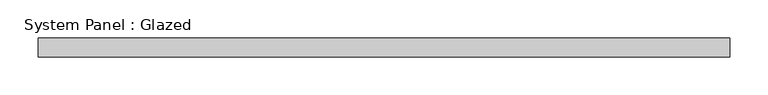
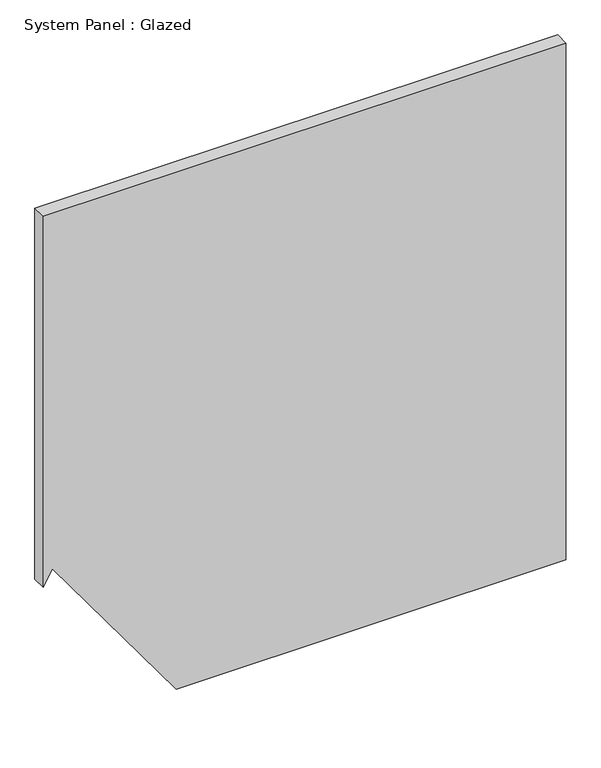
"""IFC4 building model written with IfcOpenShell, lengths in millimetres: plate geometry, System Panel : Glazed."""

from ifc_helpers import new_model, si_unit, frame, origin, place, context, project, spatial, polyline, outline, extrude, source, transform, mapped, element, save


def system_panel_glazed_a6878983(model_context):
    return source(origin(), model_context, "Body", "SweptSolid", [
        extrude(outline(polyline([(0.0, -223.0928828), (0.0, 454.4003341), (950.0, 454.4003341), (950.0, -454.4003341), (267.7118612, -454.4003341), (297.1011238, -438.9494844), (0.0, -223.0928828)])), frame((0.0, 24.5, 0.0), z_axis=(0.0, 1.0, 0.0), x_axis=(0.0, 0.0, 1.0)), (0.0, 0.0, 1.0), 25.0),
    ])


if __name__ == "__main__":
    model = new_model("IFC4")
    model_context = context("Model", 3, world=origin())
    ifc_project = project(units=[si_unit("LENGTHUNIT", "METRE", prefix="MILLI")], contexts=[model_context])
    site = spatial("IfcSite", under=ifc_project)
    building = spatial("IfcBuilding", under=site)
    placement = place(None, origin())
    system_panel_glazed_shape = system_panel_glazed_a6878983(model_context)
    element("IfcPlate", 1, ObjectType="System Panel : Glazed", at=placement, inside=building, context=model_context, shape_type="MappedRepresentation", body=[
        mapped(system_panel_glazed_shape, transform((0.0, 0.0, 0.0), x_axis=(1.0, 0.0, 0.0), y_axis=(0.0, 1.0, 0.0), z_axis=(0.0, 0.0, 1.0))),
    ])
    save(model, "model.ifc")
